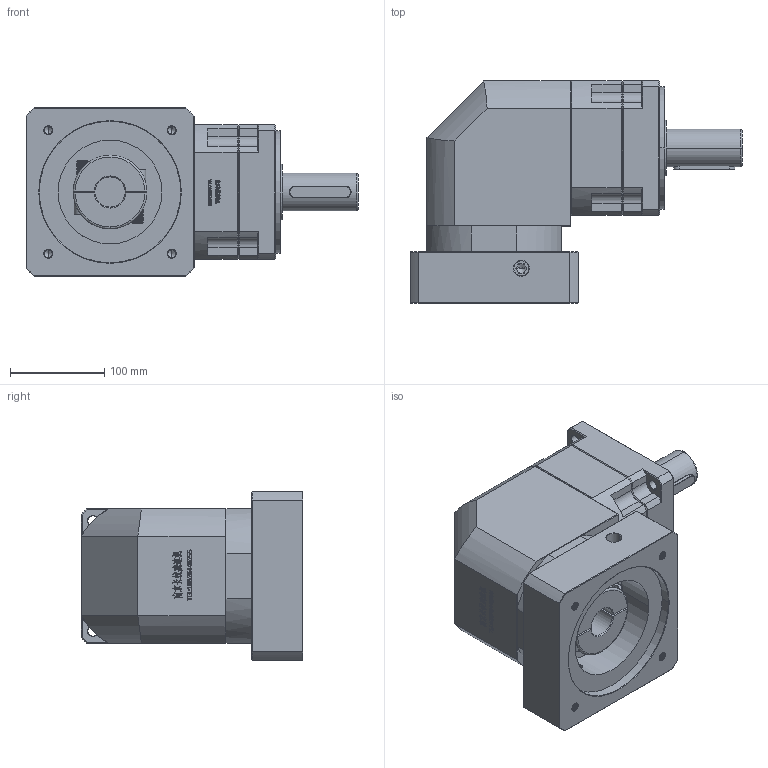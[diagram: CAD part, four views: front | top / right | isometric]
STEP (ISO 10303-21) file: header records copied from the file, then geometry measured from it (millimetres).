
FILE_DESCRIPTION (( 'STEP AP214' ), '1' );
FILE_NAME ('ZBR142A-D40-L1-32-150-185-M10.step', '2023-03-18T09:21:34', ( '' ), ( '' ), 'SwSTEP 2.0', 'SolidWorks 2016', '' );
FILE_SCHEMA (( 'AUTOMOTIVE_DESIGN' ));
Length unit declared in the file: millimetre
Products named in the file (1): ZBR142A-D40-L1-32-150-185-M10
Bounding box: 351.7 x 235 x 178 mm (x, y, z)
Volume: 6035242.6 mm3; surface area: 430087.7 mm2
Topology: 6 solids, 6 shells, 2914 faces, 7753 edges, 4988 vertices
Faces by surface type: plane 1540, bspline 596, cylinder 424, cone 332, torus 22
Entity records: 164185 total; most frequent: CARTESIAN_POINT 64382, ORIENTED_EDGE 15446, DIRECTION 11669, EDGE_CURVE 7723, LINE 5219, VECTOR 5219, VERTEX_POINT 4988, AXIS2_PLACEMENT_3D 3225
